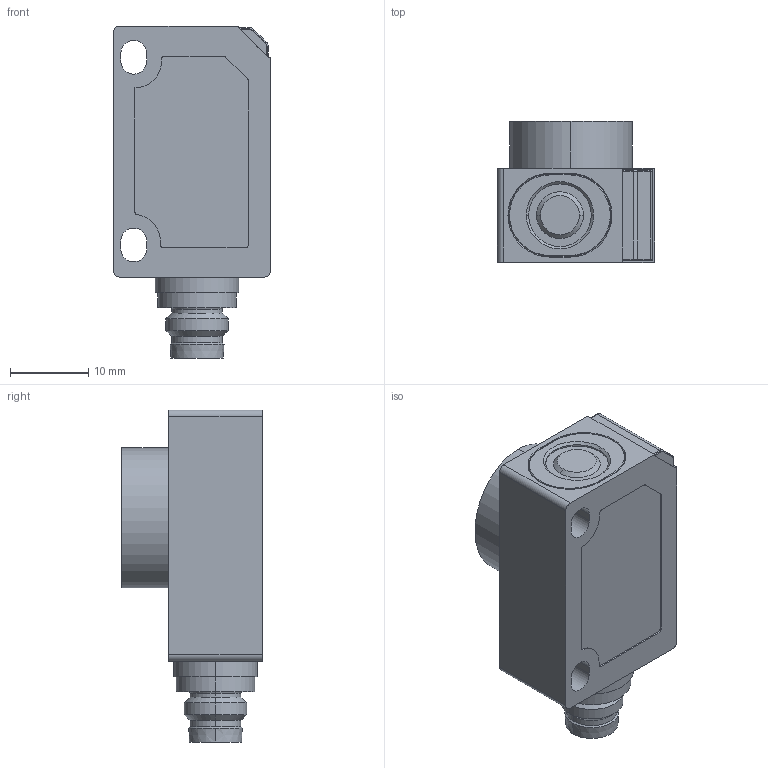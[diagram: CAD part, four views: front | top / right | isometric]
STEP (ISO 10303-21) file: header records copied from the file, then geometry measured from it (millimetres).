
FILE_DESCRIPTION (( 'STEP AP214' ), '1' );
FILE_NAME ('zws-35_CX_QS.STEP', '2025-04-25T10:15:07', ( '' ), ( '' ), 'SwSTEP 2.0', 'SolidWorks 2024', '' );
FILE_SCHEMA (( 'AUTOMOTIVE_DESIGN' ));
Length unit declared in the file: millimetre
Products named in the file (1): zws-35_CX_QS
Bounding box: 20.11 x 18 x 42.45 mm (x, y, z)
Volume: 9091.6 mm3; surface area: 3562.1 mm2
Topology: 1 solids, 1 shells, 153 faces, 382 edges, 240 vertices
Faces by surface type: cylinder 63, plane 58, cone 16, sphere 8, torus 6, bspline 2
Entity records: 6180 total; most frequent: CARTESIAN_POINT 824, DIRECTION 806, ORIENTED_EDGE 732, EDGE_CURVE 366, AXIS2_PLACEMENT_3D 302, VERTEX_POINT 232, VECTOR 202, LINE 202
